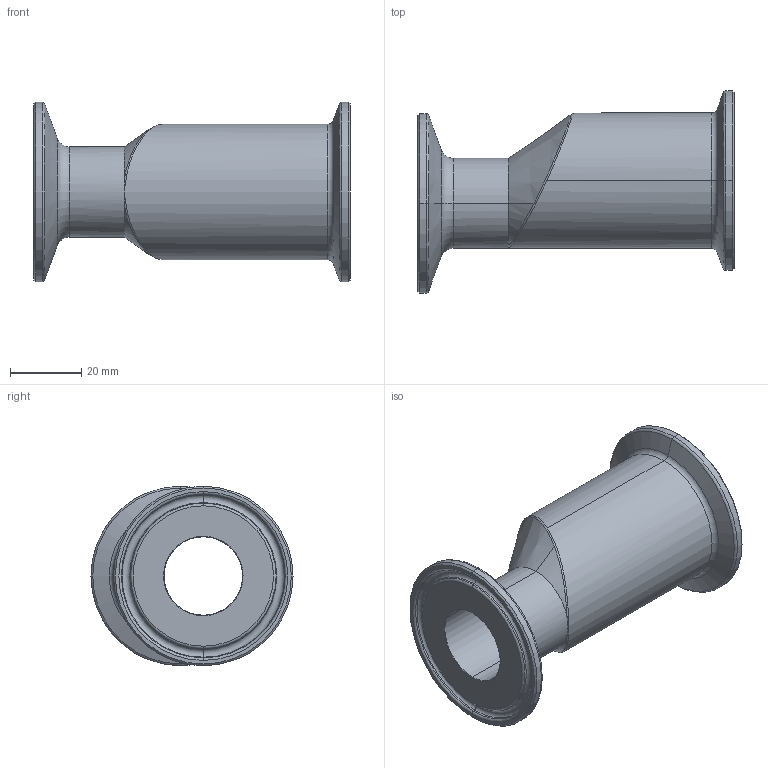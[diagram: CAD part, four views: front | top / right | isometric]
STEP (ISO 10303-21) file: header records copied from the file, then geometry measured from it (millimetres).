
FILE_DESCRIPTION (( 'STEP AP214' ), '1' );
FILE_NAME ('TEG32SCC6L1.5x1.0-...STEP', '2016-06-01T12:49:38', ( 'eran' ), ( '' ), 'SwSTEP 2.0', 'SolidWorks 2016', '' );
FILE_SCHEMA (( 'AUTOMOTIVE_DESIGN' ));
Length unit declared in the file: millimetre
Products named in the file (1): TEG32SCC6L1.5x1.0-..
Bounding box: 88.9 x 56.85 x 50.5 mm (x, y, z)
Volume: 46676.9 mm3; surface area: 21647.2 mm2
Topology: 1 solids, 1 shells, 70 faces, 150 edges, 80 vertices
Faces by surface type: torus 25, cone 24, cylinder 12, bspline 5, plane 4
Entity records: 2552 total; most frequent: CARTESIAN_POINT 1016, DIRECTION 356, ORIENTED_EDGE 292, AXIS2_PLACEMENT_3D 161, EDGE_CURVE 146, CIRCLE 95, VERTEX_POINT 80, EDGE_LOOP 74
